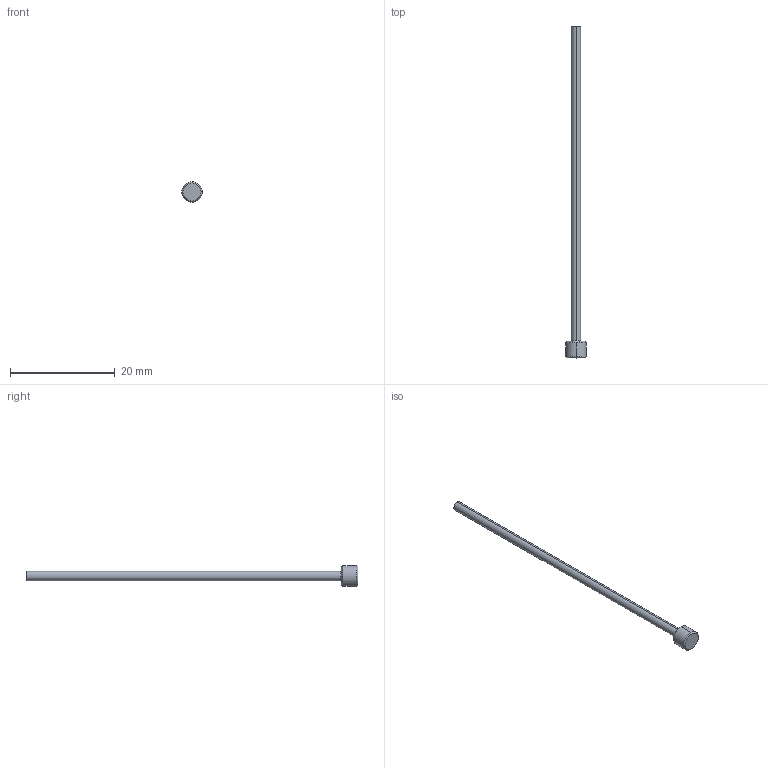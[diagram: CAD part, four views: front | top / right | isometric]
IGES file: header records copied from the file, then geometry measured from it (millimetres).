
Start section: SolidWorks IGES file using analytic representation for surfaces
Global section: file name: C:\Users\pcic_01KAK2013\OneDrive - Progressive Components\Desktop\Daily CAD\WEBSITE CAD\PRO SAVE EXPORT\TI0690L2.5.igs; native system: SolidWorks 2020; preprocessor: SolidWorks 2020; author: pcic_01KAK2013; date: 240226.162743; units: inch
Bounding box: 3.96 x 63.5 x 3.96 mm (x, y, z)
Volume: 184 mm3; surface area: 391.9 mm2
Topology: 1 solids, 1 shells, 13 faces, 24 edges, 14 vertices
Faces by surface type: revolution 10, plane 3
